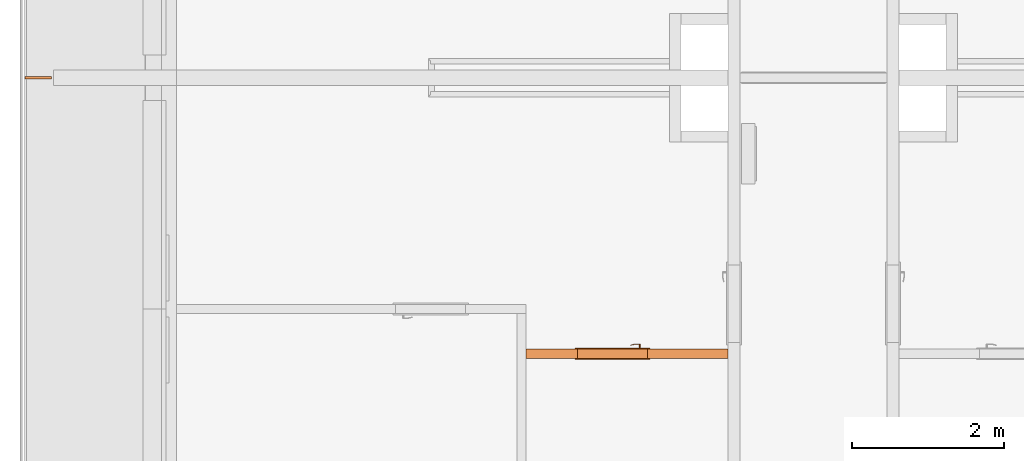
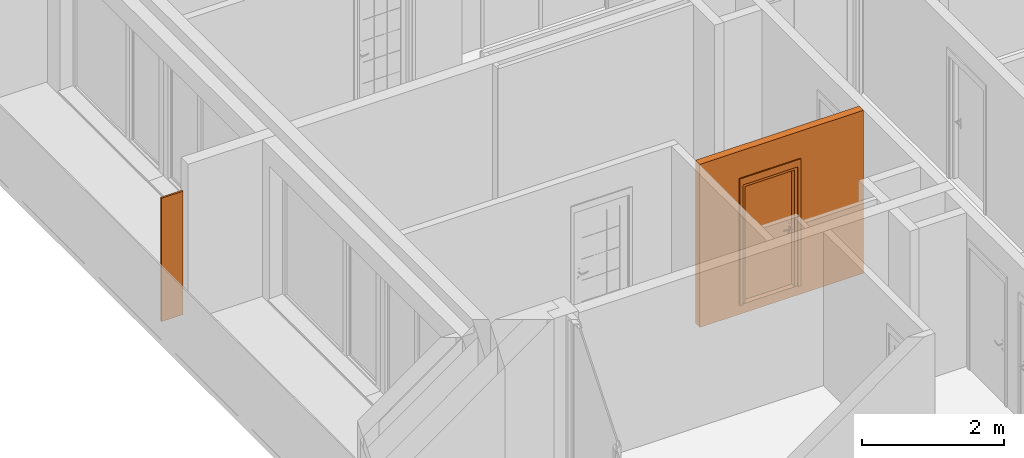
# One storey, part 11 of 66: 3 proxies, 1 opening.
"""IFC2X3 building model written with IfcOpenShell, lengths in millimetres."""

from ifc_helpers import new_model, entity, si_unit, converted_unit, derived_unit, money_unit, direction, frame, origin_with_axes, origin_2d_with_axis, place, context, subcontext, project, spatial, polyline, rectangle, outline, extrude, open_shell, faceted_brep, surface_model, source, transform, mapped, material, type_object, element, fill, save


model = new_model("IFC2X3")

# Units and contexts
model_context = context("Model", 3, precision=0.01, world=origin_with_axes(), true_north=direction((0.34421633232, 0.938890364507)))
body_context = subcontext(model_context, "Body", "Model", "MODEL_VIEW")
ifc_project = project(units=[si_unit("LENGTHUNIT", "METRE", prefix="MILLI"), si_unit("AREAUNIT", "SQUARE_METRE"), si_unit("VOLUMEUNIT", "CUBIC_METRE"), converted_unit("PLANEANGLEUNIT", "DEGREE", entity("IfcPlaneAngleMeasure", 0.0174532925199), si_unit("PLANEANGLEUNIT", "RADIAN"), dimensions=[0, 0, 0, 0, 0, 0, 0]), si_unit("SOLIDANGLEUNIT", "STERADIAN"), money_unit("USD"), converted_unit("TIMEUNIT", "Year", entity("IfcTimeMeasure", 31556926.0), si_unit("TIMEUNIT", "SECOND"), dimensions=[0, 0, 1, 0, 0, 0, 0]), si_unit("MASSUNIT", "GRAM", prefix="KILO"), si_unit("THERMODYNAMICTEMPERATUREUNIT", "DEGREE_CELSIUS"), si_unit("LUMINOUSINTENSITYUNIT", "LUMEN"), si_unit("ENERGYUNIT", "JOULE", prefix="MEGA"), derived_unit("THERMALCONDUCTANCEUNIT", [(si_unit("POWERUNIT", "WATT"), 1), (si_unit("LENGTHUNIT", "METRE"), -1), (si_unit("THERMODYNAMICTEMPERATUREUNIT", "KELVIN"), -1)]), derived_unit("SPECIFICHEATCAPACITYUNIT", [(si_unit("ENERGYUNIT", "JOULE"), 1), (si_unit("MASSUNIT", "GRAM", prefix="KILO"), -1), (si_unit("THERMODYNAMICTEMPERATUREUNIT", "KELVIN"), -1)]), derived_unit("MASSDENSITYUNIT", [(si_unit("MASSUNIT", "GRAM", prefix="KILO"), 1), (si_unit("VOLUMEUNIT", "CUBIC_METRE"), -1)])], contexts=[model_context])

# Site, building, storey
site_placement = place(None, origin_with_axes())
site = spatial("IfcSite", under=ifc_project, at=site_placement, Name="USTRONIE MORSKIE", CompositionType="ELEMENT")
building_placement = place(site_placement, origin_with_axes())
building = spatial("IfcBuilding", under=site, at=building_placement, Name="Budynek", CompositionType="ELEMENT")
storey_placement = place(building_placement, frame((0.0, 0.0, 10000.0), z_axis=(0.0, 0.0, 1.0), x_axis=(1.0, 0.0, 0.0)))
storey = spatial("IfcBuildingStorey", under=building, at=storey_placement, Name="PIĘTRO 3", CompositionType="ELEMENT", Elevation=10000.0)

# Proxies, opening
ifc_material_1 = material(Name="Bloczki silikatowe")
building_element_proxy_type_1 = type_object("IfcBuildingElementProxyType", Name="Bloczki silikatowe 120", PredefinedType="NOTDEFINED")
proxy_1_placement = place(storey_placement, frame((354717.920919, 717361.219701, -160.0), z_axis=(0.0, 0.0, 1.0), x_axis=(1.0, 0.0, 0.0)))
proxy_1 = element("IfcBuildingElementProxy", 1, at=proxy_1_placement, inside=storey, type_object=building_element_proxy_type_1, material=ifc_material_1, Name="SW-04", context=body_context, shape_type="Brep", body=[
    faceted_brep([(2720.0, 59.9999999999, 0.0), (2720.0, -59.9999999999, 0.0), (60.0, -59.9999999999, 0.0), (60.0, 59.9999999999, 0.0), (2720.0, 59.9999999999, 2800.0), (2720.0, -59.9999999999, 2800.0), (60.0, -59.9999999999, 2800.0), (60.0, 59.9999999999, 2800.0)], [[[0, 1, 2, 3]], [[1, 0, 4, 5]], [[1, 5, 6, 2]], [[7, 3, 2, 6]], [[4, 0, 3, 7]], [[5, 4, 7, 6]]]),
])
opening_placement = place(proxy_1_placement, frame((1200.0, 0.0, 160.0), z_axis=(0.0, 0.0, 1.0), x_axis=(1.0, 0.0, 0.0)))
opening = element("IfcOpeningElement", 2, at=opening_placement, cuts=proxy_1, Name="Dw.4", context=body_context, shape_type="SweptSolid", body=[
    extrude(rectangle(XDim=920.0, YDim=2070.0, at=origin_2d_with_axis()), frame((0.0, -120.0, 1035.0), z_axis=(0.0, -1.0, 0.0), x_axis=(-1.0, 0.0, 0.0)), (0.0, 0.0, -1.0), 360.0),
    extrude(rectangle(XDim=994.0, YDim=2177.0, at=origin_2d_with_axis()), frame((0.0, -59.9999999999, 1088.5), z_axis=(0.0, -1.0, 0.0), x_axis=(-1.0, 0.0, 0.0)), (0.0, 0.0, 1.0), 120.0),
    extrude(rectangle(XDim=994.0, YDim=2177.0, at=origin_2d_with_axis()), frame((0.0, 60.0000000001, 1088.5), z_axis=(0.0, 1.0, 0.0), x_axis=(-1.0, 0.0, 0.0)), (0.0, 0.0, 1.0), 120.0),
])
building_element_proxy_type_2 = type_object("IfcBuildingElementProxyType", Name="Drzwi 23", PredefinedType="NOTDEFINED")
shared_shape = source(origin_with_axes(), body_context, "Body", "SurfaceModel", [
    faceted_brep([(460.0, -115.0, 0.0), (460.0, -120.0, 0.0), (435.0, -120.0, 0.0), (435.0, -115.0, 0.0), (460.0, -115.0, 2070.0), (460.0, -120.0, 2070.0), (435.0, -120.0, 2045.0), (435.0, -115.0, 2045.0)], [[[0, 1, 2, 3]], [[4, 5, 1, 0]], [[1, 5, 6, 2]], [[3, 2, 6, 7]], [[0, 3, 7, 4]], [[7, 6, 5, 4]]]),
    faceted_brep([(-460.0, -115.0, 2070.0), (-460.0, -120.0, 2070.0), (-435.0, -120.0, 2045.0), (-435.0, -115.0, 2045.0), (-460.0, -115.0, 0.0), (-460.0, -120.0, 0.0), (-435.0, -120.0, 0.0), (-435.0, -115.0, 0.0)], [[[0, 1, 2, 3]], [[4, 5, 1, 0]], [[1, 5, 6, 2]], [[3, 2, 6, 7]], [[0, 3, 7, 4]], [[7, 6, 5, 4]]]),
    faceted_brep([(435.0, -115.0, 2045.0), (435.0, -120.0, 2045.0), (-435.0, -120.0, 2045.0), (-435.0, -115.0, 2045.0), (460.0, -115.0, 2070.0), (460.0, -120.0, 2070.0), (-460.0, -120.0, 2070.0), (-460.0, -115.0, 2070.0)], [[[0, 1, 2, 3]], [[4, 5, 1, 0]], [[1, 5, 6, 2]], [[3, 2, 6, 7]], [[0, 3, 7, 4]], [[7, 6, 5, 4]]]),
    faceted_brep([(497.0, -139.0, 0.0), (447.0, -139.0, 0.0), (447.0, -120.0, 0.0), (497.0, -120.0, 0.0), (497.0, -139.0, 2177.0), (447.0, -139.0, 2057.0), (447.0, -120.0, 2057.0), (497.0, -120.0, 2177.0)], [[[0, 1, 2, 3]], [[0, 4, 5, 1]], [[1, 5, 6, 2]], [[3, 2, 6, 7]], [[4, 0, 3, 7]], [[5, 4, 7, 6]]]),
    faceted_brep([(-497.0, -139.0, 2177.0), (-447.0, -139.0, 2057.0), (-447.0, -120.0, 2057.0), (-497.0, -120.0, 2177.0), (-497.0, -139.0, 0.0), (-447.0, -139.0, 0.0), (-447.0, -120.0, 0.0), (-497.0, -120.0, 0.0)], [[[0, 1, 2, 3]], [[0, 4, 5, 1]], [[1, 5, 6, 2]], [[3, 2, 6, 7]], [[4, 0, 3, 7]], [[5, 4, 7, 6]]]),
    faceted_brep([(497.0, -139.0, 2177.0), (447.0, -139.0, 2057.0), (447.0, -120.0, 2057.0), (497.0, -120.0, 2177.0), (-497.0, -139.0, 2177.0), (-447.0, -139.0, 2057.0), (-447.0, -120.0, 2057.0), (-497.0, -120.0, 2177.0)], [[[0, 1, 2, 3]], [[0, 4, 5, 1]], [[1, 5, 6, 2]], [[3, 2, 6, 7]], [[4, 0, 3, 7]], [[5, 4, 7, 6]]]),
    faceted_brep([(497.0, 19.0, 0.0), (497.0, 0.0, 0.0), (447.0, 0.0, 0.0), (447.0, 19.0, 0.0), (497.0, 19.0, 2177.0), (497.0, 0.0, 2177.0), (447.0, 0.0, 2057.0), (447.0, 19.0, 2057.0)], [[[0, 1, 2, 3]], [[4, 5, 1, 0]], [[1, 5, 6, 2]], [[3, 2, 6, 7]], [[0, 3, 7, 4]], [[7, 6, 5, 4]]]),
    faceted_brep([(-497.0, 19.0, 2177.0), (-497.0, 0.0, 2177.0), (-447.0, 0.0, 2057.0), (-447.0, 19.0, 2057.0), (-497.0, 19.0, 0.0), (-497.0, 0.0, 0.0), (-447.0, 0.0, 0.0), (-447.0, 19.0, 0.0)], [[[0, 1, 2, 3]], [[4, 5, 1, 0]], [[1, 5, 6, 2]], [[3, 2, 6, 7]], [[0, 3, 7, 4]], [[7, 6, 5, 4]]]),
    faceted_brep([(497.0, 19.0, 2177.0), (497.0, 0.0, 2177.0), (447.0, 0.0, 2057.0), (447.0, 19.0, 2057.0), (-497.0, 19.0, 2177.0), (-497.0, 0.0, 2177.0), (-447.0, 0.0, 2057.0), (-447.0, 19.0, 2057.0)], [[[0, 1, 2, 3]], [[4, 5, 1, 0]], [[1, 5, 6, 2]], [[3, 2, 6, 7]], [[0, 3, 7, 4]], [[7, 6, 5, 4]]]),
    faceted_brep([(400.0, -40.0, 0.0), (400.0, -115.0, 0.0), (400.0, -115.0, 2000.0), (400.0, -40.0, 2000.0), (412.0, -40.0, 0.0), (412.0, 0.0, 0.0), (460.0, 0.0, 0.0), (460.0, -115.0, 0.0), (460.0, -115.0, 2000.0), (412.0, -40.0, 2000.0), (460.0, 0.0, 2000.0), (412.0, 0.0, 2000.0)], [[[0, 1, 2, 3]], [[4, 5, 6, 7, 1, 0]], [[1, 7, 8, 2]], [[9, 3, 2, 8, 10, 11]], [[9, 4, 0, 3]], [[11, 5, 4, 9]], [[11, 10, 6, 5]], [[6, 10, 8, 7]]]),
    faceted_brep([(-412.0, -40.0, 2000.0), (-412.0, 0.0, 2000.0), (-460.0, 0.0, 2000.0), (-460.0, -115.0, 2000.0), (-400.0, -115.0, 2000.0), (-400.0, -40.0, 2000.0), (-412.0, -40.0, 0.0), (-412.0, 0.0, 0.0), (-460.0, 0.0, 0.0), (-460.0, -115.0, 0.0), (-400.0, -115.0, 0.0), (-400.0, -40.0, 0.0)], [[[0, 1, 2, 3, 4, 5]], [[0, 6, 7, 1]], [[7, 8, 2, 1]], [[2, 8, 9, 3]], [[3, 9, 10, 4]], [[5, 4, 10, 11]], [[5, 11, 6, 0]], [[6, 11, 10, 9, 8, 7]]]),
    faceted_brep([(412.0, 0.0, 2012.0), (-412.0, 0.0, 2012.0), (-412.0, 0.0, 2000.0), (-460.0, 0.0, 2000.0), (-460.0, 0.0, 2070.0), (460.0, 0.0, 2070.0), (460.0, 0.0, 2000.0), (412.0, 0.0, 2000.0), (412.0, -40.0, 2012.0), (-412.0, -40.0, 2012.0), (-412.0, -40.0, 2000.0), (-400.0, -40.0, 2000.0), (-400.0, -115.0, 2000.0), (-460.0, -115.0, 2000.0), (-460.0, -115.0, 2070.0), (460.0, -115.0, 2070.0), (460.0, -115.0, 2000.0), (412.0, -40.0, 2000.0), (400.0, -115.0, 2000.0), (400.0, -40.0, 2000.0)], [[[0, 1, 2, 3, 4, 5, 6, 7]], [[0, 8, 9, 1]], [[1, 9, 10, 2]], [[10, 11, 12, 13, 3, 2]], [[4, 3, 13, 14]], [[5, 4, 14, 15]], [[6, 5, 15, 16]], [[17, 7, 6, 16, 18, 19]], [[7, 17, 8, 0]], [[10, 9, 8, 17, 19, 11]], [[19, 18, 12, 11]], [[12, 18, 16, 15, 14, 13]]]),
    faceted_brep([(390.5, -40.0, 1060.0), (333.5, -40.0, 1060.0), (333.5, -43.0, 1060.0), (390.5, -43.0, 1060.0), (390.5, -40.0, 870.0), (333.5, -40.0, 870.0), (333.5, -43.0, 870.0), (390.5, -43.0, 870.0)], [[[0, 1, 2, 3]], [[0, 4, 5, 1]], [[1, 5, 6, 2]], [[3, 2, 6, 7]], [[4, 0, 3, 7]], [[5, 4, 7, 6]]]),
    faceted_brep([(362.0, -104.0, 990.0), (367.0, -104.0, 991.339745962), (367.0, -111.0, 991.339745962), (362.0, -111.0, 990.0), (337.0, -104.0, 990.0), (337.0, -104.0, 1010.0), (362.0, -104.0, 1010.0), (367.0, -104.0, 1008.66025404), (370.660254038, -104.0, 1005.0), (372.0, -104.0, 1000.0), (370.660254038, -104.0, 995.0), (370.660254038, -111.0, 995.0), (372.0, -111.0, 1000.0), (370.660254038, -111.0, 1005.0), (367.0, -111.0, 1008.66025404), (362.0, -111.0, 1010.0), (337.0, -111.0, 1010.0), (337.0, -111.0, 990.0)], [[[0, 1, 2, 3]], [[0, 4, 5, 6, 7, 8, 9, 10, 1]], [[1, 10, 11, 2]], [[3, 2, 11, 12, 13, 14, 15, 16, 17]], [[4, 0, 3, 17]], [[5, 4, 17, 16]], [[6, 5, 16, 15]], [[7, 6, 15, 14]], [[8, 7, 14, 13]], [[9, 8, 13, 12]], [[10, 9, 12, 11]]]),
    surface_model("IfcShellBasedSurfaceModel", [(337.0, -104.0, 1010.0), (323.901717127, -104.0, 1009.60730092), (323.596090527, -111.0, 1009.60730092), (337.0, -104.0, 990.0), (323.901717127, -104.0, 990.392699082), (296.890283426, -108.663544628, 1008.82190275), (337.0, -111.0, 1010.0), (337.0, -111.0, 990.0), (297.804837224, -101.716818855, 991.178097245), (297.804837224, -101.716818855, 1008.82190275), (296.890283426, -108.663544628, 991.178097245), (323.596090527, -111.0, 990.392699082), (272.006256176, -97.1678329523, 991.963495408), (272.006256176, -97.1678329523, 1008.03650459), (270.489735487, -104.008415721, 1008.03650459), (270.489735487, -104.008415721, 991.963495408), (246.702316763, -90.3876628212, 992.748893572), (246.702316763, -90.3876628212, 1007.25110643), (244.59537082, -97.0700416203, 1007.25110643), (244.59537082, -97.0700416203, 992.748893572), (238.829442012, -87.5221707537, 993.0), (238.829442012, -87.5221707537, 1007.0), (236.538795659, -94.1376880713, 1007.0), (236.538795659, -94.1376880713, 993.0)], [open_shell([[[0, 1, 2]], [[0, 3, 4, 1]], [[1, 5, 2]], [[0, 2, 6]], [[4, 3, 7]], [[1, 4, 8, 9]], [[1, 9, 5]], [[2, 5, 10, 11]], [[6, 2, 11, 7]], [[4, 7, 11]], [[8, 4, 11]], [[9, 8, 12, 13]], [[9, 14, 5]], [[5, 14, 15, 10]], [[8, 11, 10]], [[12, 8, 10]], [[13, 12, 16, 17]], [[9, 13, 14]], [[14, 18, 19, 15]], [[12, 10, 15]], [[16, 12, 15]], [[17, 16, 20, 21]], [[13, 17, 18]], [[13, 18, 14]], [[18, 22, 23, 19]], [[16, 15, 19]], [[20, 16, 19]], [[21, 20, 23, 22]], [[17, 21, 22]], [[17, 22, 18]], [[20, 19, 23]]])]),
    faceted_brep([(351.607695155, -53.0, 994.0), (350.0, -53.0, 1000.0), (349.0, -43.0, 1000.0), (350.741669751, -43.0, 993.5), (356.0, -53.0, 989.607695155), (362.0, -53.0, 988.0), (368.0, -53.0, 989.607695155), (372.392304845, -53.0, 994.0), (374.0, -53.0, 1000.0), (372.392304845, -53.0, 1006.0), (368.0, -53.0, 1010.39230485), (362.0, -53.0, 1012.0), (356.0, -53.0, 1010.39230485), (351.607695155, -53.0, 1006.0), (350.741669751, -43.0, 1006.5), (355.5, -43.0, 1011.25833025), (362.0, -43.0, 1013.0), (368.5, -43.0, 1011.25833025), (373.258330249, -43.0, 1006.5), (375.0, -43.0, 1000.0), (373.258330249, -43.0, 993.5), (368.5, -43.0, 988.741669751), (362.0, -43.0, 987.0), (355.5, -43.0, 988.741669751)], [[[0, 1, 2, 3]], [[1, 0, 4, 5, 6, 7, 8, 9, 10, 11, 12, 13]], [[1, 13, 14, 2]], [[2, 14, 15, 16, 17, 18, 19, 20, 21, 22, 23, 3]], [[4, 0, 3, 23]], [[5, 4, 23, 22]], [[6, 5, 22, 21]], [[7, 6, 21, 20]], [[8, 7, 20, 19]], [[9, 8, 19, 18]], [[10, 9, 18, 17]], [[11, 10, 17, 16]], [[12, 11, 16, 15]], [[13, 12, 15, 14]]]),
    faceted_brep([(344.679491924, -47.0, 895.0), (342.0, -47.0, 905.0), (340.0, -43.0, 905.0), (342.947441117, -43.0, 894.0), (352.0, -47.0, 887.679491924), (362.0, -47.0, 885.0), (372.0, -47.0, 887.679491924), (379.320508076, -47.0, 895.0), (382.0, -47.0, 905.0), (379.320508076, -47.0, 915.0), (372.0, -47.0, 922.320508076), (362.0, -47.0, 925.0), (352.0, -47.0, 922.320508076), (344.679491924, -47.0, 915.0), (342.947441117, -43.0, 916.0), (351.0, -43.0, 924.052558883), (362.0, -43.0, 927.0), (373.0, -43.0, 924.052558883), (381.052558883, -43.0, 916.0), (384.0, -43.0, 905.0), (381.052558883, -43.0, 894.0), (373.0, -43.0, 885.947441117), (362.0, -43.0, 883.0), (351.0, -43.0, 885.947441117)], [[[0, 1, 2, 3]], [[1, 0, 4, 5, 6, 7, 8, 9, 10, 11, 12, 13]], [[1, 13, 14, 2]], [[2, 14, 15, 16, 17, 18, 19, 20, 21, 22, 23, 3]], [[4, 0, 3, 23]], [[5, 4, 23, 22]], [[6, 5, 22, 21]], [[7, 6, 21, 20]], [[8, 7, 20, 19]], [[9, 8, 19, 18]], [[10, 9, 18, 17]], [[11, 10, 17, 16]], [[12, 11, 16, 15]], [[13, 12, 15, 14]]]),
    faceted_brep([(357.050252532, -49.0, 909.050252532), (355.0, -49.0, 914.0), (354.0, -47.0, 914.0), (356.343145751, -47.0, 908.343145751), (362.0, -49.0, 907.0), (366.949747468, -49.0, 909.050252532), (369.0, -49.0, 914.0), (366.949747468, -49.0, 918.949747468), (362.0, -49.0, 921.0), (357.050252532, -49.0, 918.949747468), (356.343145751, -47.0, 919.656854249), (362.0, -47.0, 922.0), (367.656854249, -47.0, 919.656854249), (370.0, -47.0, 914.0), (367.656854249, -47.0, 908.343145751), (362.0, -47.0, 906.0)], [[[0, 1, 2, 3]], [[1, 0, 4, 5, 6, 7, 8, 9]], [[1, 9, 10, 2]], [[2, 10, 11, 12, 13, 14, 15, 3]], [[4, 0, 3, 15]], [[5, 4, 15, 14]], [[6, 5, 14, 13]], [[7, 6, 13, 12]], [[8, 7, 12, 11]], [[9, 8, 11, 10]]]),
    faceted_brep([(362.0, -53.0, 1010.0), (357.0, -53.0, 1008.66025404), (357.0, -104.0, 1008.66025404), (362.0, -104.0, 1010.0), (367.0, -53.0, 1008.66025404), (370.660254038, -53.0, 1005.0), (372.0, -53.0, 1000.0), (370.660254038, -53.0, 995.0), (367.0, -53.0, 991.339745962), (362.0, -53.0, 990.0), (357.0, -53.0, 991.339745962), (353.339745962, -53.0, 995.0), (352.0, -53.0, 1000.0), (353.339745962, -53.0, 1005.0), (353.339745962, -104.0, 1005.0), (352.0, -104.0, 1000.0), (353.339745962, -104.0, 995.0), (357.0, -104.0, 991.339745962), (362.0, -104.0, 990.0), (367.0, -104.0, 991.339745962), (370.660254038, -104.0, 995.0), (372.0, -104.0, 1000.0), (370.660254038, -104.0, 1005.0), (367.0, -104.0, 1008.66025404)], [[[0, 1, 2, 3]], [[0, 4, 5, 6, 7, 8, 9, 10, 11, 12, 13, 1]], [[1, 13, 14, 2]], [[3, 2, 14, 15, 16, 17, 18, 19, 20, 21, 22, 23]], [[4, 0, 3, 23]], [[5, 4, 23, 22]], [[6, 5, 22, 21]], [[7, 6, 21, 20]], [[8, 7, 20, 19]], [[9, 8, 19, 18]], [[10, 9, 18, 17]], [[11, 10, 17, 16]], [[12, 11, 16, 15]], [[13, 12, 15, 14]]]),
    faceted_brep([(390.5, 0.0, 1060.0), (390.5, 3.0, 1060.0), (333.5, 3.0, 1060.0), (333.5, 0.0, 1060.0), (390.5, 0.0, 870.0), (390.5, 3.0, 870.0), (333.5, 3.0, 870.0), (333.5, 0.0, 870.0)], [[[0, 1, 2, 3]], [[4, 5, 1, 0]], [[1, 5, 6, 2]], [[3, 2, 6, 7]], [[0, 3, 7, 4]], [[7, 6, 5, 4]]]),
    faceted_brep([(362.0, 64.0, 990.0), (362.0, 71.0, 990.0), (367.0, 71.0, 991.339745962), (367.0, 64.0, 991.339745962), (337.0, 64.0, 990.0), (337.0, 71.0, 990.0), (337.0, 71.0, 1010.0), (362.0, 71.0, 1010.0), (367.0, 71.0, 1008.66025404), (370.660254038, 71.0, 1005.0), (372.0, 71.0, 1000.0), (370.660254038, 71.0, 995.0), (370.660254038, 64.0, 995.0), (372.0, 64.0, 1000.0), (370.660254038, 64.0, 1005.0), (367.0, 64.0, 1008.66025404), (362.0, 64.0, 1010.0), (337.0, 64.0, 1010.0)], [[[0, 1, 2, 3]], [[4, 5, 1, 0]], [[1, 5, 6, 7, 8, 9, 10, 11, 2]], [[3, 2, 11, 12]], [[0, 3, 12, 13, 14, 15, 16, 17, 4]], [[17, 6, 5, 4]], [[16, 7, 6, 17]], [[15, 8, 7, 16]], [[14, 9, 8, 15]], [[13, 10, 9, 14]], [[12, 11, 10, 13]]]),
    surface_model("IfcShellBasedSurfaceModel", [(337.0, 64.0, 1010.0), (323.596090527, 71.0, 1009.60730092), (323.901717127, 64.0, 1009.60730092), (337.0, 71.0, 1010.0), (296.890283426, 68.6635446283, 1008.82190275), (323.901717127, 64.0, 990.392699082), (337.0, 64.0, 990.0), (337.0, 71.0, 990.0), (323.596090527, 71.0, 990.392699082), (296.890283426, 68.6635446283, 991.178097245), (297.804837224, 61.716818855, 1008.82190275), (297.804837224, 61.716818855, 991.178097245), (270.489735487, 64.0084157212, 991.963495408), (270.489735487, 64.0084157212, 1008.03650459), (272.006256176, 57.1678329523, 1008.03650459), (272.006256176, 57.1678329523, 991.963495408), (244.59537082, 57.0700416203, 992.748893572), (244.59537082, 57.0700416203, 1007.25110643), (246.702316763, 50.3876628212, 1007.25110643), (246.702316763, 50.3876628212, 992.748893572), (236.538795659, 54.1376880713, 993.0), (236.538795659, 54.1376880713, 1007.0), (238.829442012, 47.5221707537, 1007.0), (238.829442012, 47.5221707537, 993.0)], [open_shell([[[0, 1, 2]], [[0, 3, 1]], [[2, 1, 4]], [[0, 2, 5, 6]], [[3, 7, 8, 1]], [[1, 8, 9, 4]], [[2, 4, 10]], [[2, 10, 11, 5]], [[5, 7, 6]], [[5, 8, 7]], [[11, 9, 8]], [[4, 9, 12, 13]], [[10, 4, 13]], [[10, 14, 15, 11]], [[11, 8, 5]], [[15, 9, 11]], [[15, 12, 9]], [[13, 12, 16, 17]], [[10, 13, 14]], [[14, 18, 19, 15]], [[19, 12, 15]], [[19, 16, 12]], [[17, 16, 20, 21]], [[14, 13, 17]], [[14, 17, 18]], [[18, 22, 23, 19]], [[23, 16, 19]], [[23, 20, 16]], [[22, 21, 20, 23]], [[18, 17, 21]], [[18, 21, 22]]])]),
    faceted_brep([(351.607695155, 13.0, 994.0), (350.741669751, 3.0, 993.5), (349.0, 3.0, 1000.0), (350.0, 13.0, 1000.0), (356.0, 13.0, 989.607695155), (355.5, 3.0, 988.741669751), (362.0, 3.0, 987.0), (368.5, 3.0, 988.741669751), (373.258330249, 3.0, 993.5), (375.0, 3.0, 1000.0), (373.258330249, 3.0, 1006.5), (368.5, 3.0, 1011.25833025), (362.0, 3.0, 1013.0), (355.5, 3.0, 1011.25833025), (350.741669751, 3.0, 1006.5), (351.607695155, 13.0, 1006.0), (356.0, 13.0, 1010.39230485), (362.0, 13.0, 1012.0), (368.0, 13.0, 1010.39230485), (372.392304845, 13.0, 1006.0), (374.0, 13.0, 1000.0), (372.392304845, 13.0, 994.0), (368.0, 13.0, 989.607695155), (362.0, 13.0, 988.0)], [[[0, 1, 2, 3]], [[4, 5, 1, 0]], [[2, 1, 5, 6, 7, 8, 9, 10, 11, 12, 13, 14]], [[3, 2, 14, 15]], [[3, 15, 16, 17, 18, 19, 20, 21, 22, 23, 4, 0]], [[23, 6, 5, 4]], [[22, 7, 6, 23]], [[21, 8, 7, 22]], [[20, 9, 8, 21]], [[19, 10, 9, 20]], [[18, 11, 10, 19]], [[17, 12, 11, 18]], [[16, 13, 12, 17]], [[15, 14, 13, 16]]]),
    faceted_brep([(344.679491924, 7.0, 895.0), (342.947441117, 3.0, 894.0), (340.0, 3.0, 905.0), (342.0, 7.0, 905.0), (352.0, 7.0, 887.679491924), (351.0, 3.0, 885.947441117), (362.0, 3.0, 883.0), (373.0, 3.0, 885.947441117), (381.052558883, 3.0, 894.0), (384.0, 3.0, 905.0), (381.052558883, 3.0, 916.0), (373.0, 3.0, 924.052558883), (362.0, 3.0, 927.0), (351.0, 3.0, 924.052558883), (342.947441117, 3.0, 916.0), (344.679491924, 7.0, 915.0), (352.0, 7.0, 922.320508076), (362.0, 7.0, 925.0), (372.0, 7.0, 922.320508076), (379.320508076, 7.0, 915.0), (382.0, 7.0, 905.0), (379.320508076, 7.0, 895.0), (372.0, 7.0, 887.679491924), (362.0, 7.0, 885.0)], [[[0, 1, 2, 3]], [[4, 5, 1, 0]], [[2, 1, 5, 6, 7, 8, 9, 10, 11, 12, 13, 14]], [[3, 2, 14, 15]], [[3, 15, 16, 17, 18, 19, 20, 21, 22, 23, 4, 0]], [[23, 6, 5, 4]], [[22, 7, 6, 23]], [[21, 8, 7, 22]], [[20, 9, 8, 21]], [[19, 10, 9, 20]], [[18, 11, 10, 19]], [[17, 12, 11, 18]], [[16, 13, 12, 17]], [[15, 14, 13, 16]]]),
    faceted_brep([(357.050252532, 9.0, 909.050252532), (356.343145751, 7.0, 908.343145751), (354.0, 7.0, 914.0), (355.0, 9.0, 914.0), (362.0, 9.0, 907.0), (362.0, 7.0, 906.0), (367.656854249, 7.0, 908.343145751), (370.0, 7.0, 914.0), (367.656854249, 7.0, 919.656854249), (362.0, 7.0, 922.0), (356.343145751, 7.0, 919.656854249), (357.050252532, 9.0, 918.949747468), (362.0, 9.0, 921.0), (366.949747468, 9.0, 918.949747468), (369.0, 9.0, 914.0), (366.949747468, 9.0, 909.050252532)], [[[0, 1, 2, 3]], [[4, 5, 1, 0]], [[2, 1, 5, 6, 7, 8, 9, 10]], [[3, 2, 10, 11]], [[3, 11, 12, 13, 14, 15, 4, 0]], [[15, 6, 5, 4]], [[14, 7, 6, 15]], [[13, 8, 7, 14]], [[12, 9, 8, 13]], [[11, 10, 9, 12]]]),
    faceted_brep([(362.0, 13.0, 1010.0), (362.0, 64.0, 1010.0), (357.0, 64.0, 1008.66025404), (357.0, 13.0, 1008.66025404), (367.0, 13.0, 1008.66025404), (367.0, 64.0, 1008.66025404), (370.660254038, 64.0, 1005.0), (372.0, 64.0, 1000.0), (370.660254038, 64.0, 995.0), (367.0, 64.0, 991.339745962), (362.0, 64.0, 990.0), (357.0, 64.0, 991.339745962), (353.339745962, 64.0, 995.0), (352.0, 64.0, 1000.0), (353.339745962, 64.0, 1005.0), (353.339745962, 13.0, 1005.0), (352.0, 13.0, 1000.0), (353.339745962, 13.0, 995.0), (357.0, 13.0, 991.339745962), (362.0, 13.0, 990.0), (367.0, 13.0, 991.339745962), (370.660254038, 13.0, 995.0), (372.0, 13.0, 1000.0), (370.660254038, 13.0, 1005.0)], [[[0, 1, 2, 3]], [[4, 5, 1, 0]], [[1, 5, 6, 7, 8, 9, 10, 11, 12, 13, 14, 2]], [[3, 2, 14, 15]], [[0, 3, 15, 16, 17, 18, 19, 20, 21, 22, 23, 4]], [[23, 6, 5, 4]], [[22, 7, 6, 23]], [[21, 8, 7, 22]], [[20, 9, 8, 21]], [[19, 10, 9, 20]], [[18, 11, 10, 19]], [[17, 12, 11, 18]], [[16, 13, 12, 17]], [[15, 14, 13, 16]]]),
    faceted_brep([(-412.0, 0.0, 0.0), (412.0, 0.0, 0.0), (412.0, -40.0, 0.0), (-412.0, -40.0, 0.0), (-412.0, 0.0, 2012.0), (412.0, 0.0, 2012.0), (412.0, -40.0, 2012.0), (-412.0, -40.0, 2012.0)], [[[0, 1, 2, 3]], [[0, 4, 5, 1]], [[1, 5, 6, 2]], [[3, 2, 6, 7]], [[4, 0, 3, 7]], [[5, 4, 7, 6]]]),
])
proxy_2_placement = place(opening_placement, frame((-400.0, 0.0, 0.0), z_axis=(0.0, 0.0, 1.0), x_axis=(1.0, 0.0, 0.0)))
proxy_2 = element("IfcBuildingElementProxy", 3, at=proxy_2_placement, inside=storey, type_object=building_element_proxy_type_2, Name="Dw.4", context=body_context, shape_type="MappedRepresentation", body=[
    mapped(shared_shape, transform((400.0, 60.0000000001, 0.0))),
])
fill(opening, proxy_2)

# Proxy
ifc_material_2 = material(Name="Woda")
building_element_proxy_type_3 = type_object("IfcBuildingElementProxyType", Name="Woda 30", PredefinedType="NOTDEFINED")
proxy_3_placement = place(storey_placement, frame((348517.920919, 721001.189034, 20.0), z_axis=(0.0, 0.0, 1.0), x_axis=(-0.999999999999, 1.42887919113e-06, 0.0)))
element("IfcBuildingElementProxy", 4, at=proxy_3_placement, inside=storey, type_object=building_element_proxy_type_3, material=ifc_material_2, Name="Œciana-007", context=body_context, shape_type="SweptSolid", body=[
    extrude(outline(polyline([(0.0, -15.0), (350.000000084, -15.0), (350.000000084, 15.0000000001), (0.0, 15.0000000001), (0.0, -15.0)])), origin_with_axes(), (0.0, 0.0, 1.0), 2120.0),
])

save(model, "model.ifc")
